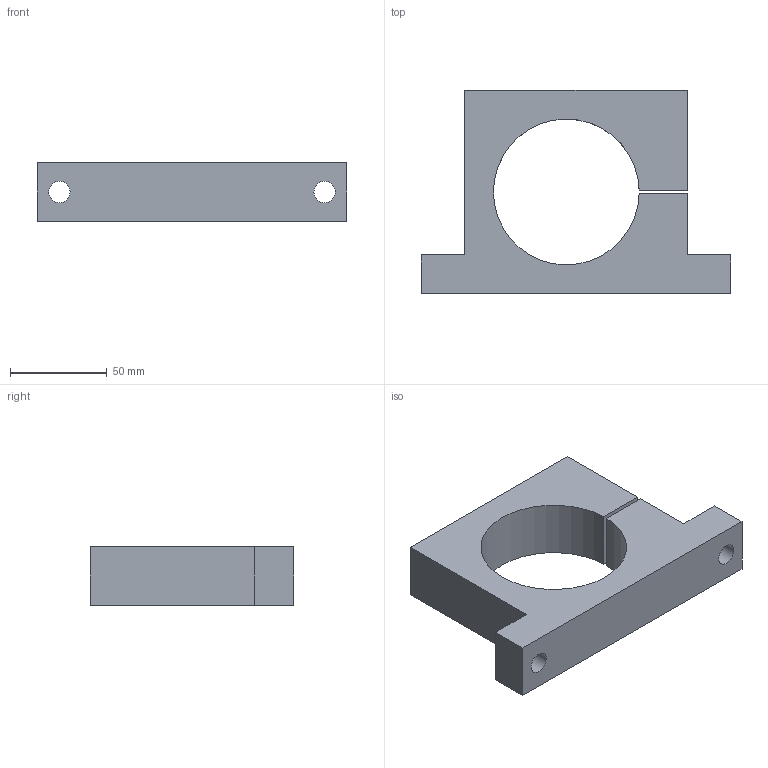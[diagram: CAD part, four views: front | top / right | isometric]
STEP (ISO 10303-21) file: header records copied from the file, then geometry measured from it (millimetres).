
FILE_DESCRIPTION(/* description */ (''),/* implementation_level */ '2;1');
FILE_NAME(/* name */ 'C:\Users\Jefferson\Desktop\Biblioteca Pro Nitro 2024\Flanges\PNB-57-XXX\PNB-57-075.stp',/* time_stamp */ '2024-01-29T10:18:41-03:00',/* author */ ('Jefferson'),/* organization */ (''),/* preprocessor_version */ 'ST-DEVELOPER v18.1',/* originating_system */ 'Autodesk Inventor 2021',/* authorisation */ '');
FILE_SCHEMA (('AUTOMOTIVE_DESIGN { 1 0 10303 214 3 1 1 }'));
Length unit declared in the file: millimetre
Products named in the file (1): PNB-57-075
Bounding box: 160 x 105 x 30 mm (x, y, z)
Volume: 242496 mm3; surface area: 44735.5 mm2
Topology: 1 solids, 1 shells, 159 faces, 432 edges, 290 vertices
Faces by surface type: plane 92, bspline 60, cylinder 6, cone 1
Full cylindrical faces by diameter (mm): 8.376 x1, 11 x3, 18 x1
Entity records: 5341 total; most frequent: CARTESIAN_POINT 1661, ORIENTED_EDGE 862, DIRECTION 530, EDGE_CURVE 431, LINE 292, VECTOR 292, VERTEX_POINT 290, EDGE_LOOP 181
